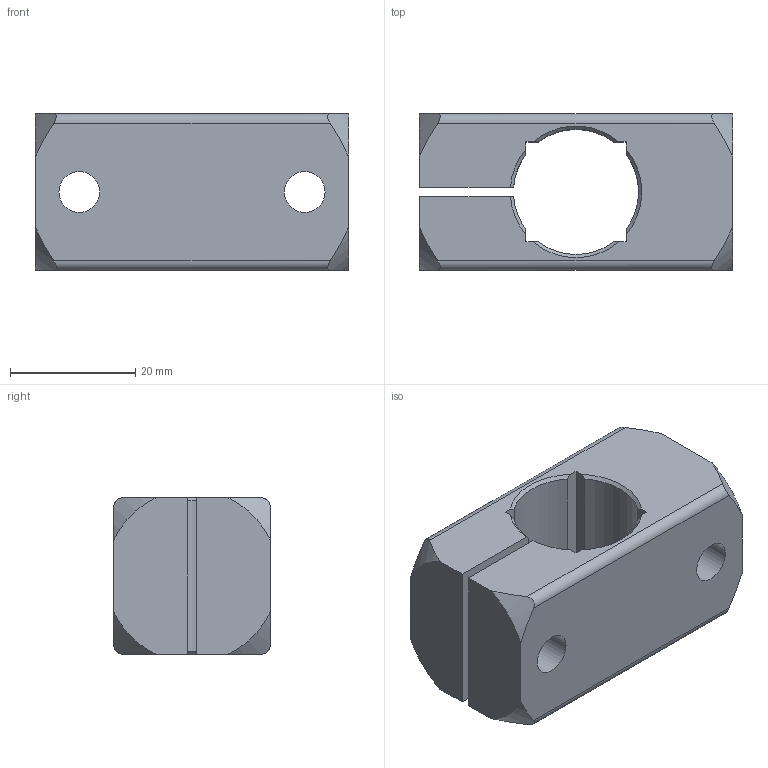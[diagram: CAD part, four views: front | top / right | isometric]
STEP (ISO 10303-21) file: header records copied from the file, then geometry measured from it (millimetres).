
FILE_DESCRIPTION( ( 'STEP AP203' ), '1' );
FILE_NAME( 'C:/Temp/Ganter_Step_05_03_2020/data/3_7/gn_477/Clamp mounting GN 477-B20-MT.stp', '2020-03-12T14:46:07', ( 'License CC BY-ND 4.0' ), ( 'CADENAS' ), ' ', 'PARTsolutions', ' ' );
FILE_SCHEMA( ( 'CONFIG_CONTROL_DESIGN' ) );
Length unit declared in the file: millimetre
Products named in the file (1): _Clamp mounting GN 477-B20-MT
Bounding box: 50 x 25 x 25 mm (x, y, z)
Volume: 20130.4 mm3; surface area: 8586.6 mm2
Topology: 1 solids, 1 shells, 51 faces, 142 edges, 95 vertices
Faces by surface type: plane 19, cone 18, cylinder 14
Full cylindrical faces by diameter (mm): 6.5 x3, 10.5 x2
Entity records: 1804 total; most frequent: CARTESIAN_POINT 510, ORIENTED_EDGE 272, DIRECTION 234, EDGE_CURVE 136, VERTEX_POINT 94, AXIS2_PLACEMENT_3D 90, EDGE_LOOP 64, FACE_OUTER_BOUND 56
